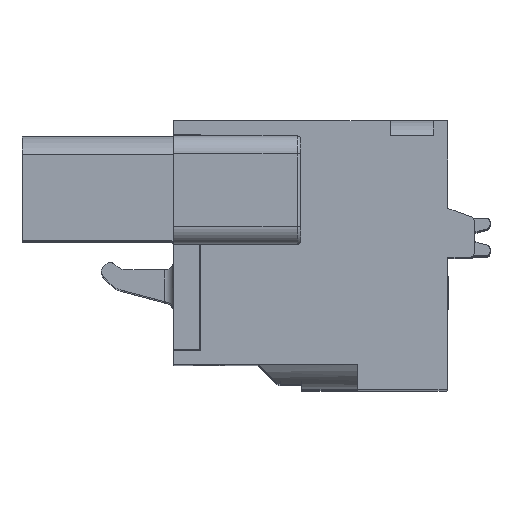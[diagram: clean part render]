
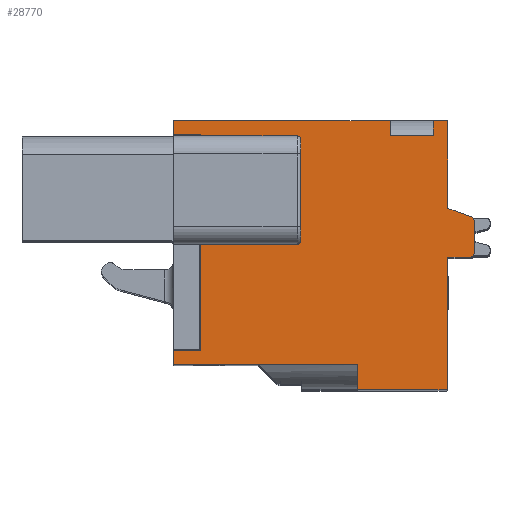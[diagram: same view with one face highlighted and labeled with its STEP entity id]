
A CAD part, top view. The second image highlights one B-rep face of the part: STEP entity #28770.
In plain terms, the highlighted planar face has unit normal (0, 0, 1).
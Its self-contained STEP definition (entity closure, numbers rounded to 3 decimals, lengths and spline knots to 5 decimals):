
#158=DIRECTION('',(0.,1.,0.));
#159=VECTOR('',#158,0.0315);
#160=CARTESIAN_POINT('',(0.47244,0.12008,2.));
#161=LINE('',#160,#159);
#768=DIRECTION('',(-1.,0.,0.));
#769=VECTOR('',#768,0.05906);
#770=CARTESIAN_POINT('',(0.05906,-0.34941,2.));
#771=LINE('',#770,#769);
#856=CARTESIAN_POINT('',(0.26969,0.11024,2.));
#857=DIRECTION('',(0.,0.,1.));
#858=DIRECTION('',(1.,0.,0.));
#859=AXIS2_PLACEMENT_3D('',#856,#857,#858);
#861=DIRECTION('',(-1.,0.,0.));
#862=VECTOR('',#861,0.21063);
#863=CARTESIAN_POINT('',(0.26969,0.11811,2.));
#864=LINE('',#863,#862);
#865=DIRECTION('',(-1.,0.,0.));
#866=VECTOR('',#865,0.05906);
#867=CARTESIAN_POINT('',(0.05906,0.12106,2.));
#868=LINE('',#867,#866);
#869=DIRECTION('',(0.,1.,0.));
#870=VECTOR('',#869,0.03051);
#871=CARTESIAN_POINT('',(0.,0.12106,2.));
#872=LINE('',#871,#870);
#873=DIRECTION('',(1.,0.,0.));
#874=VECTOR('',#873,0.47244);
#875=CARTESIAN_POINT('',(0.,0.15157,2.));
#876=LINE('',#875,#874);
#877=DIRECTION('',(1.,0.,0.));
#878=VECTOR('',#877,0.09449);
#879=CARTESIAN_POINT('',(0.47244,0.12008,2.));
#880=LINE('',#879,#878);
#881=DIRECTION('',(0.,1.,0.));
#882=VECTOR('',#881,0.0315);
#883=CARTESIAN_POINT('',(0.56693,0.12008,2.));
#884=LINE('',#883,#882);
#885=DIRECTION('',(1.,0.,0.));
#886=VECTOR('',#885,0.0315);
#887=CARTESIAN_POINT('',(0.56693,0.15157,2.));
#888=LINE('',#887,#886);
#889=DIRECTION('',(0.,-1.,0.));
#890=VECTOR('',#889,0.19094);
#891=CARTESIAN_POINT('',(0.59843,0.15157,2.));
#892=LINE('',#891,#890);
#893=DIRECTION('',(0.94,-0.342,0.));
#894=VECTOR('',#893,0.05524);
#895=CARTESIAN_POINT('',(0.59843,-0.03937,2.));
#896=LINE('',#895,#894);
#897=CARTESIAN_POINT('',(0.64764,-0.06566,2.));
#898=DIRECTION('',(0.,0.,-1.));
#899=DIRECTION('',(0.342,0.94,0.));
#900=AXIS2_PLACEMENT_3D('',#897,#898,#899);
#902=DIRECTION('',(0.,-1.,0.));
#903=VECTOR('',#902,0.07213);
#904=CARTESIAN_POINT('',(0.65551,-0.06566,2.));
#905=LINE('',#904,#903);
#906=CARTESIAN_POINT('',(0.64764,-0.1378,2.));
#907=DIRECTION('',(0.,0.,-1.));
#908=DIRECTION('',(1.,0.,0.));
#909=AXIS2_PLACEMENT_3D('',#906,#907,#908);
#911=DIRECTION('',(-1.,0.,0.));
#912=VECTOR('',#911,0.04921);
#913=CARTESIAN_POINT('',(0.64764,-0.14567,2.));
#914=LINE('',#913,#912);
#915=DIRECTION('',(0.,-1.,0.));
#916=VECTOR('',#915,0.28543);
#917=CARTESIAN_POINT('',(0.59843,-0.14567,2.));
#918=LINE('',#917,#916);
#919=CARTESIAN_POINT('',(0.59449,-0.4311,2.));
#920=DIRECTION('',(0.,0.,-1.));
#921=DIRECTION('',(1.,0.,0.));
#922=AXIS2_PLACEMENT_3D('',#919,#920,#921);
#924=DIRECTION('',(-1.,0.,0.));
#925=VECTOR('',#924,0.19291);
#926=CARTESIAN_POINT('',(0.59449,-0.43504,2.));
#927=LINE('',#926,#925);
#928=DIRECTION('',(0.,1.,0.));
#929=VECTOR('',#928,0.05512);
#930=CARTESIAN_POINT('',(0.40157,-0.43504,2.));
#931=LINE('',#930,#929);
#932=DIRECTION('',(-1.,0.,0.));
#933=VECTOR('',#932,0.40157);
#934=CARTESIAN_POINT('',(0.40157,-0.37992,2.));
#935=LINE('',#934,#933);
#936=DIRECTION('',(0.,1.,0.));
#937=VECTOR('',#936,0.03051);
#938=CARTESIAN_POINT('',(0.,-0.37992,2.));
#939=LINE('',#938,#937);
#940=CARTESIAN_POINT('',(0.26969,-0.11024,2.));
#941=DIRECTION('',(0.,0.,1.));
#942=DIRECTION('',(0.,-1.,0.));
#943=AXIS2_PLACEMENT_3D('',#940,#941,#942);
#945=DIRECTION('',(0.,-1.,0.));
#946=VECTOR('',#945,0.22047);
#947=CARTESIAN_POINT('',(0.27756,0.11024,2.));
#948=LINE('',#947,#946);
#1031=DIRECTION('',(-1.,0.,0.));
#1032=VECTOR('',#1031,0.21063);
#1033=CARTESIAN_POINT('',(0.26969,-0.11811,2.));
#1034=LINE('',#1033,#1032);
#1059=DIRECTION('',(0.,-1.,0.));
#1060=VECTOR('',#1059,0.00295);
#1061=CARTESIAN_POINT('',(0.05906,0.12106,2.));
#1062=LINE('',#1061,#1060);
#1071=DIRECTION('',(0.,-1.,0.));
#1072=VECTOR('',#1071,0.2313);
#1073=CARTESIAN_POINT('',(0.05906,-0.11811,2.));
#1074=LINE('',#1073,#1072);
#22664=CARTESIAN_POINT('',(0.05906,-0.34941,2.));
#22665=VERTEX_POINT('',#22664);
#22666=CARTESIAN_POINT('',(0.,-0.34941,2.));
#22667=VERTEX_POINT('',#22666);
#22867=CARTESIAN_POINT('',(0.,0.12106,2.));
#22868=VERTEX_POINT('',#22867);
#22869=CARTESIAN_POINT('',(0.05906,0.12106,2.));
#22870=VERTEX_POINT('',#22869);
#23158=CARTESIAN_POINT('',(0.,-0.37992,2.));
#23159=VERTEX_POINT('',#23158);
#23160=CARTESIAN_POINT('',(0.,0.15157,2.));
#23161=VERTEX_POINT('',#23160);
#23162=CARTESIAN_POINT('',(0.27756,0.11024,2.));
#23163=CARTESIAN_POINT('',(0.27756,-0.11024,2.));
#23164=VERTEX_POINT('',#23162);
#23165=VERTEX_POINT('',#23163);
#23166=CARTESIAN_POINT('',(0.26969,0.11811,2.));
#23167=VERTEX_POINT('',#23166);
#23168=CARTESIAN_POINT('',(0.05906,0.11811,2.));
#23169=VERTEX_POINT('',#23168);
#23170=CARTESIAN_POINT('',(0.47244,0.15157,2.));
#23171=VERTEX_POINT('',#23170);
#23172=CARTESIAN_POINT('',(0.47244,0.12008,2.));
#23173=VERTEX_POINT('',#23172);
#23174=CARTESIAN_POINT('',(0.56693,0.12008,2.));
#23175=VERTEX_POINT('',#23174);
#23176=CARTESIAN_POINT('',(0.56693,0.15157,2.));
#23177=VERTEX_POINT('',#23176);
#23178=CARTESIAN_POINT('',(0.59843,0.15157,2.));
#23179=VERTEX_POINT('',#23178);
#23180=CARTESIAN_POINT('',(0.59843,-0.03937,2.));
#23181=VERTEX_POINT('',#23180);
#23182=CARTESIAN_POINT('',(0.65033,-0.05826,2.));
#23183=VERTEX_POINT('',#23182);
#23184=CARTESIAN_POINT('',(0.65551,-0.06566,2.));
#23185=VERTEX_POINT('',#23184);
#23186=CARTESIAN_POINT('',(0.65551,-0.1378,2.));
#23187=VERTEX_POINT('',#23186);
#23188=CARTESIAN_POINT('',(0.64764,-0.14567,2.));
#23189=VERTEX_POINT('',#23188);
#23190=CARTESIAN_POINT('',(0.59843,-0.14567,2.));
#23191=VERTEX_POINT('',#23190);
#23192=CARTESIAN_POINT('',(0.59843,-0.4311,2.));
#23193=VERTEX_POINT('',#23192);
#23194=CARTESIAN_POINT('',(0.59449,-0.43504,2.));
#23195=VERTEX_POINT('',#23194);
#23196=CARTESIAN_POINT('',(0.40157,-0.43504,2.));
#23197=VERTEX_POINT('',#23196);
#23198=CARTESIAN_POINT('',(0.40157,-0.37992,2.));
#23199=VERTEX_POINT('',#23198);
#23200=CARTESIAN_POINT('',(0.05906,-0.11811,2.));
#23201=VERTEX_POINT('',#23200);
#23202=CARTESIAN_POINT('',(0.26969,-0.11811,2.));
#23203=VERTEX_POINT('',#23202);
#28717=CARTESIAN_POINT('',(0.,0.,2.));
#28718=DIRECTION('',(0.,0.,1.));
#28719=DIRECTION('',(1.,0.,0.));
#28720=AXIS2_PLACEMENT_3D('',#28717,#28718,#28719);
#28721=PLANE('',#28720);
#28723=ORIENTED_EDGE('',*,*,#28722,.F.);
#28725=ORIENTED_EDGE('',*,*,#28724,.T.);
#28727=ORIENTED_EDGE('',*,*,#28726,.T.);
#28729=ORIENTED_EDGE('',*,*,#28728,.F.);
#28730=ORIENTED_EDGE('',*,*,#28694,.T.);
#28731=ORIENTED_EDGE('',*,*,#28712,.T.);
#28732=ORIENTED_EDGE('',*,*,#27470,.T.);
#28733=ORIENTED_EDGE('',*,*,#27673,.F.);
#28734=ORIENTED_EDGE('',*,*,#27688,.T.);
#28735=ORIENTED_EDGE('',*,*,#27706,.T.);
#28736=ORIENTED_EDGE('',*,*,#27799,.T.);
#28738=ORIENTED_EDGE('',*,*,#28737,.T.);
#28740=ORIENTED_EDGE('',*,*,#28739,.T.);
#28742=ORIENTED_EDGE('',*,*,#28741,.T.);
#28744=ORIENTED_EDGE('',*,*,#28743,.T.);
#28746=ORIENTED_EDGE('',*,*,#28745,.T.);
#28748=ORIENTED_EDGE('',*,*,#28747,.T.);
#28750=ORIENTED_EDGE('',*,*,#28749,.T.);
#28752=ORIENTED_EDGE('',*,*,#28751,.T.);
#28754=ORIENTED_EDGE('',*,*,#28753,.T.);
#28756=ORIENTED_EDGE('',*,*,#28755,.T.);
#28758=ORIENTED_EDGE('',*,*,#28757,.T.);
#28760=ORIENTED_EDGE('',*,*,#28759,.T.);
#28761=ORIENTED_EDGE('',*,*,#28589,.F.);
#28763=ORIENTED_EDGE('',*,*,#28762,.F.);
#28765=ORIENTED_EDGE('',*,*,#28764,.F.);
#28767=ORIENTED_EDGE('',*,*,#28766,.T.);
#28768=EDGE_LOOP('',(#28723,#28725,#28727,#28729,#28730,#28731,#28732,#28733,
#28734,#28735,#28736,#28738,#28740,#28742,#28744,#28746,#28748,#28750,#28752,
#28754,#28756,#28758,#28760,#28761,#28763,#28765,#28767));
#28769=FACE_OUTER_BOUND('',#28768,.F.);
#28770=ADVANCED_FACE('',(#28769),#28721,.T.);
#860=CIRCLE('',#859,0.00787);
#901=CIRCLE('',#900,0.00787);
#910=CIRCLE('',#909,0.00787);
#923=CIRCLE('',#922,0.00394);
#944=CIRCLE('',#943,0.00787);
#27470=EDGE_CURVE('',#23161,#23171,#876,.T.);
#27673=EDGE_CURVE('',#23173,#23171,#161,.T.);
#27688=EDGE_CURVE('',#23173,#23175,#880,.T.);
#27706=EDGE_CURVE('',#23175,#23177,#884,.T.);
#27799=EDGE_CURVE('',#23177,#23179,#888,.T.);
#28589=EDGE_CURVE('',#22665,#22667,#771,.T.);
#28694=EDGE_CURVE('',#22870,#22868,#868,.T.);
#28712=EDGE_CURVE('',#22868,#23161,#872,.T.);
#28722=EDGE_CURVE('',#23164,#23165,#948,.T.);
#28724=EDGE_CURVE('',#23164,#23167,#860,.T.);
#28726=EDGE_CURVE('',#23167,#23169,#864,.T.);
#28728=EDGE_CURVE('',#22870,#23169,#1062,.T.);
#28737=EDGE_CURVE('',#23179,#23181,#892,.T.);
#28739=EDGE_CURVE('',#23181,#23183,#896,.T.);
#28741=EDGE_CURVE('',#23183,#23185,#901,.T.);
#28743=EDGE_CURVE('',#23185,#23187,#905,.T.);
#28745=EDGE_CURVE('',#23187,#23189,#910,.T.);
#28747=EDGE_CURVE('',#23189,#23191,#914,.T.);
#28749=EDGE_CURVE('',#23191,#23193,#918,.T.);
#28751=EDGE_CURVE('',#23193,#23195,#923,.T.);
#28753=EDGE_CURVE('',#23195,#23197,#927,.T.);
#28755=EDGE_CURVE('',#23197,#23199,#931,.T.);
#28757=EDGE_CURVE('',#23199,#23159,#935,.T.);
#28759=EDGE_CURVE('',#23159,#22667,#939,.T.);
#28762=EDGE_CURVE('',#23201,#22665,#1074,.T.);
#28764=EDGE_CURVE('',#23203,#23201,#1034,.T.);
#28766=EDGE_CURVE('',#23203,#23165,#944,.T.);
